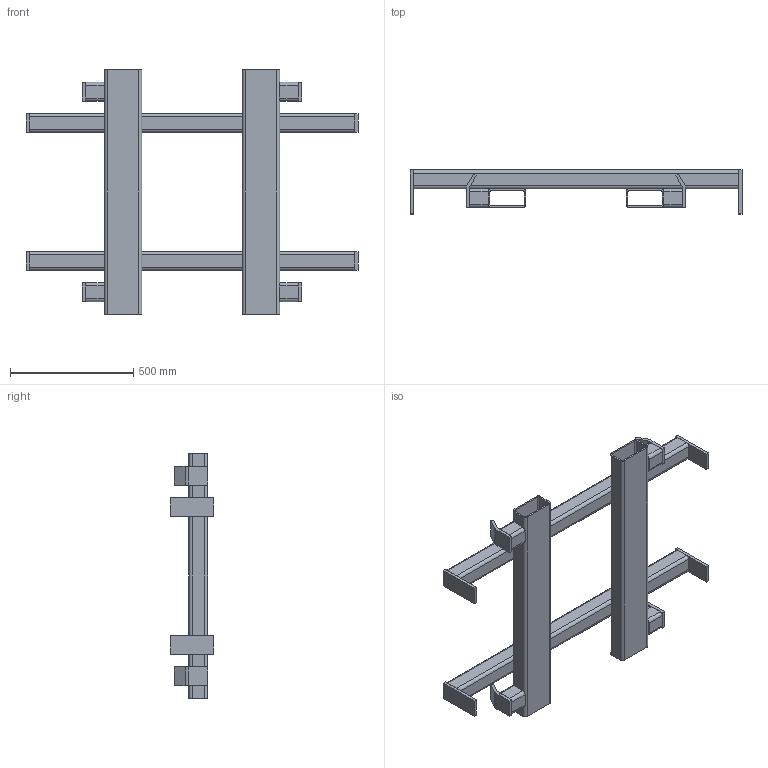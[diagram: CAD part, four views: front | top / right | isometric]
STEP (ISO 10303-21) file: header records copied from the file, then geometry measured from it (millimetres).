
FILE_DESCRIPTION(/* description */ ('BagLift-500FA'),/* implementation_level */ '2;1');
FILE_NAME(/* name */ 'B:\Inventor Files\Parts\Adapters\FA-500\BL500-FA.stp',/* time_stamp */ '2021-05-13T07:10:21-05:00',/* author */ ('rwest'),/* organization */ (''),/* preprocessor_version */ 'ST-DEVELOPER v17',/* originating_system */ 'Autodesk Inventor 2019',/* authorisation */ '');
FILE_SCHEMA (('AUTOMOTIVE_DESIGN { 1 0 10303 214 3 1 1 }'));
Length unit declared in the file: inch
Products named in the file (6): 500-FA; AISC - 3x6x1_4 - 39; AISC - 3x3x1_4 - 52; AISC - 3x3x1_4 - 3; 3 x 7 x 0.5 Plate; 3 x 5.5 x 1_2 Bent Plate
Assembly tree (16 placements, depth 2):
  500-FA
    AISC - 3x6x1_4 - 39  x2
    AISC - 3x3x1_4 - 52  x2
    AISC - 3x3x1_4 - 3  x4
    3 x 7 x 0.5 Plate  x4
    3 x 5.5 x 1_2 Bent Plate  x4
Bounding box: 1346.2 x 177.8 x 990.6 mm (x, y, z)
Volume: 11377136 mm3; surface area: 3468140.3 mm2
Topology: 16 solids, 16 shells, 208 faces, 528 edges, 352 vertices
Faces by surface type: plane 136, cylinder 72
Entity records: 2479 total; most frequent: DIRECTION 418, CARTESIAN_POINT 393, ORIENTED_EDGE 360, EDGE_CURVE 180, AXIS2_PLACEMENT_3D 145, LINE 128, VECTOR 128, VERTEX_POINT 120
